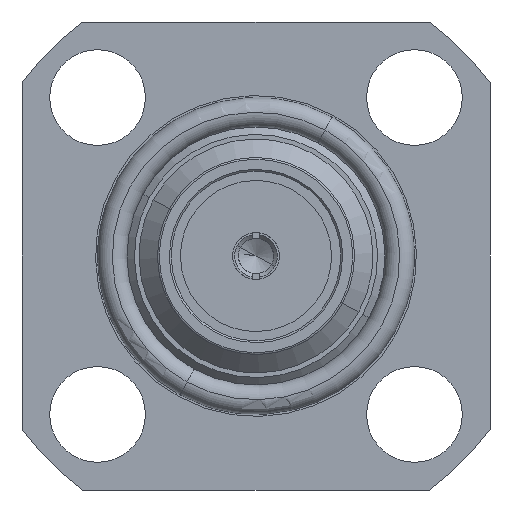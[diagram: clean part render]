
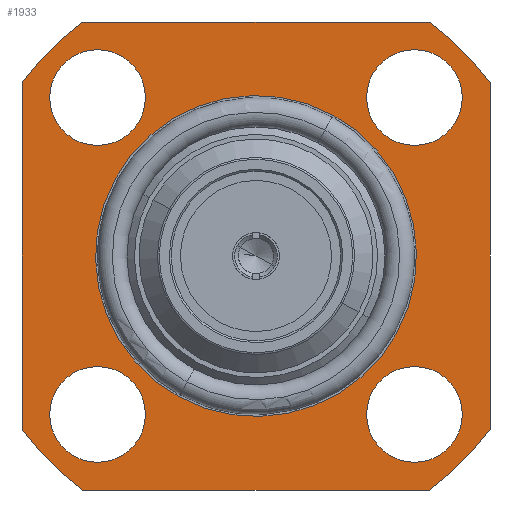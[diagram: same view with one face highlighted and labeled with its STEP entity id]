
A CAD part, left-side view. The second image highlights one B-rep face of the part: STEP entity #1933.
In plain terms, the highlighted planar face has unit normal (-1, 0, 0).
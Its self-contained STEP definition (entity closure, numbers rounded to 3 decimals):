
#222=CARTESIAN_POINT('Axis2P3D Location',(10.3,-4.3,-4.3)) ;
#226=CARTESIAN_POINT('Vertex',(10.3,-3.,-4.3)) ;
#228=CARTESIAN_POINT('Vertex',(10.3,-5.6,-4.3)) ;
#257=CARTESIAN_POINT('Axis2P3D Location',(10.3,-4.3,-4.3)) ;
#431=CARTESIAN_POINT('Vertex',(10.3,-4.7,6.35)) ;
#434=CARTESIAN_POINT('Axis2P3D Location',(10.3,0.,0.)) ;
#438=CARTESIAN_POINT('Vertex',(10.3,-6.35,4.7)) ;
#458=CARTESIAN_POINT('Line Origine',(10.3,-6.35,0.)) ;
#462=CARTESIAN_POINT('Vertex',(10.3,-6.35,-4.7)) ;
#477=CARTESIAN_POINT('Axis2P3D Location',(10.3,0.,0.)) ;
#481=CARTESIAN_POINT('Vertex',(10.3,-4.7,-6.35)) ;
#501=CARTESIAN_POINT('Line Origine',(10.3,0.,-6.35)) ;
#505=CARTESIAN_POINT('Vertex',(10.3,4.7,-6.35)) ;
#520=CARTESIAN_POINT('Axis2P3D Location',(10.3,0.,0.)) ;
#524=CARTESIAN_POINT('Vertex',(10.3,6.35,-4.7)) ;
#544=CARTESIAN_POINT('Line Origine',(10.3,6.35,0.)) ;
#548=CARTESIAN_POINT('Vertex',(10.3,6.35,4.7)) ;
#563=CARTESIAN_POINT('Axis2P3D Location',(10.3,0.,0.)) ;
#567=CARTESIAN_POINT('Vertex',(10.3,4.7,6.35)) ;
#587=CARTESIAN_POINT('Line Origine',(10.3,0.,6.35)) ;
#610=CARTESIAN_POINT('Vertex',(10.3,3.822,2.088)) ;
#613=CARTESIAN_POINT('Axis2P3D Location',(10.3,0.,0.)) ;
#617=CARTESIAN_POINT('Vertex',(10.3,-3.822,-2.088)) ;
#639=CARTESIAN_POINT('Axis2P3D Location',(10.3,0.,0.)) ;
#1774=CARTESIAN_POINT('Axis2P3D Location',(10.3,4.3,4.3)) ;
#1778=CARTESIAN_POINT('Vertex',(10.3,3.,4.3)) ;
#1780=CARTESIAN_POINT('Vertex',(10.3,5.6,4.3)) ;
#1800=CARTESIAN_POINT('Axis2P3D Location',(10.3,4.3,4.3)) ;
#1817=CARTESIAN_POINT('Axis2P3D Location',(10.3,-4.3,4.3)) ;
#1821=CARTESIAN_POINT('Vertex',(10.3,-3.,4.3)) ;
#1823=CARTESIAN_POINT('Vertex',(10.3,-5.6,4.3)) ;
#1843=CARTESIAN_POINT('Axis2P3D Location',(10.3,-4.3,4.3)) ;
#1860=CARTESIAN_POINT('Axis2P3D Location',(10.3,4.3,-4.3)) ;
#1864=CARTESIAN_POINT('Vertex',(10.3,3.,-4.3)) ;
#1866=CARTESIAN_POINT('Vertex',(10.3,5.6,-4.3)) ;
#1886=CARTESIAN_POINT('Axis2P3D Location',(10.3,4.3,-4.3)) ;
#1898=CARTESIAN_POINT('Axis2P3D Location',(10.3,-6.35,0.)) ;
#223=DIRECTION('Axis2P3D Direction',(1.,0.,0.)) ;
#258=DIRECTION('Axis2P3D Direction',(1.,0.,0.)) ;
#435=DIRECTION('Axis2P3D Direction',(1.,0.,0.)) ;
#459=DIRECTION('Vector Direction',(0.,0.,-1.)) ;
#478=DIRECTION('Axis2P3D Direction',(1.,0.,0.)) ;
#502=DIRECTION('Vector Direction',(0.,-1.,0.)) ;
#521=DIRECTION('Axis2P3D Direction',(1.,0.,0.)) ;
#545=DIRECTION('Vector Direction',(0.,0.,1.)) ;
#564=DIRECTION('Axis2P3D Direction',(1.,0.,0.)) ;
#588=DIRECTION('Vector Direction',(0.,1.,0.)) ;
#614=DIRECTION('Axis2P3D Direction',(1.,0.,0.)) ;
#640=DIRECTION('Axis2P3D Direction',(1.,0.,0.)) ;
#1775=DIRECTION('Axis2P3D Direction',(1.,0.,0.)) ;
#1801=DIRECTION('Axis2P3D Direction',(1.,0.,0.)) ;
#1818=DIRECTION('Axis2P3D Direction',(1.,0.,0.)) ;
#1844=DIRECTION('Axis2P3D Direction',(1.,0.,0.)) ;
#1861=DIRECTION('Axis2P3D Direction',(1.,0.,0.)) ;
#1887=DIRECTION('Axis2P3D Direction',(1.,0.,0.)) ;
#1899=DIRECTION('Axis2P3D Direction',(1.,0.,0.)) ;
#1900=DIRECTION('Axis2P3D XDirection',(0.,1.,0.)) ;
#224=AXIS2_PLACEMENT_3D('Circle Axis2P3D',#222,#223,$) ;
#259=AXIS2_PLACEMENT_3D('Circle Axis2P3D',#257,#258,$) ;
#436=AXIS2_PLACEMENT_3D('Circle Axis2P3D',#434,#435,$) ;
#479=AXIS2_PLACEMENT_3D('Circle Axis2P3D',#477,#478,$) ;
#522=AXIS2_PLACEMENT_3D('Circle Axis2P3D',#520,#521,$) ;
#565=AXIS2_PLACEMENT_3D('Circle Axis2P3D',#563,#564,$) ;
#615=AXIS2_PLACEMENT_3D('Circle Axis2P3D',#613,#614,$) ;
#641=AXIS2_PLACEMENT_3D('Circle Axis2P3D',#639,#640,$) ;
#1776=AXIS2_PLACEMENT_3D('Circle Axis2P3D',#1774,#1775,$) ;
#1802=AXIS2_PLACEMENT_3D('Circle Axis2P3D',#1800,#1801,$) ;
#1819=AXIS2_PLACEMENT_3D('Circle Axis2P3D',#1817,#1818,$) ;
#1845=AXIS2_PLACEMENT_3D('Circle Axis2P3D',#1843,#1844,$) ;
#1862=AXIS2_PLACEMENT_3D('Circle Axis2P3D',#1860,#1861,$) ;
#1888=AXIS2_PLACEMENT_3D('Circle Axis2P3D',#1886,#1887,$) ;
#1901=AXIS2_PLACEMENT_3D('Plane Axis2P3D',#1898,#1899,#1900) ;
#1904=ORIENTED_EDGE('',*,*,#591,.F.) ;
#1905=ORIENTED_EDGE('',*,*,#569,.F.) ;
#1906=ORIENTED_EDGE('',*,*,#550,.F.) ;
#1907=ORIENTED_EDGE('',*,*,#526,.F.) ;
#1908=ORIENTED_EDGE('',*,*,#507,.F.) ;
#1909=ORIENTED_EDGE('',*,*,#483,.F.) ;
#1910=ORIENTED_EDGE('',*,*,#464,.F.) ;
#1911=ORIENTED_EDGE('',*,*,#440,.F.) ;
#1914=ORIENTED_EDGE('',*,*,#230,.T.) ;
#1915=ORIENTED_EDGE('',*,*,#261,.T.) ;
#1918=ORIENTED_EDGE('',*,*,#1868,.T.) ;
#1919=ORIENTED_EDGE('',*,*,#1890,.T.) ;
#1922=ORIENTED_EDGE('',*,*,#1825,.T.) ;
#1923=ORIENTED_EDGE('',*,*,#1847,.T.) ;
#1926=ORIENTED_EDGE('',*,*,#1782,.T.) ;
#1927=ORIENTED_EDGE('',*,*,#1804,.T.) ;
#1930=ORIENTED_EDGE('',*,*,#643,.T.) ;
#1931=ORIENTED_EDGE('',*,*,#619,.T.) ;
#1916=FACE_BOUND('',#1913,.T.) ;
#1920=FACE_BOUND('',#1917,.T.) ;
#1924=FACE_BOUND('',#1921,.T.) ;
#1928=FACE_BOUND('',#1925,.T.) ;
#1932=FACE_BOUND('',#1929,.T.) ;
#460=VECTOR('Line Direction',#459,1.) ;
#503=VECTOR('Line Direction',#502,1.) ;
#546=VECTOR('Line Direction',#545,1.) ;
#589=VECTOR('Line Direction',#588,1.) ;
#1933=ADVANCED_FACE('\X2\96F64EF651E04F554F53\X0\',(#1912,#1916,#1920,#1924,#1928,#1932),#1902,.F.) ;
#225=CIRCLE('generated circle',#224,1.3) ;
#260=CIRCLE('generated circle',#259,1.3) ;
#437=CIRCLE('generated circle',#436,7.9) ;
#480=CIRCLE('generated circle',#479,7.9) ;
#523=CIRCLE('generated circle',#522,7.9) ;
#566=CIRCLE('generated circle',#565,7.9) ;
#616=CIRCLE('generated circle',#615,4.355) ;
#642=CIRCLE('generated circle',#641,4.355) ;
#1777=CIRCLE('generated circle',#1776,1.3) ;
#1803=CIRCLE('generated circle',#1802,1.3) ;
#1820=CIRCLE('generated circle',#1819,1.3) ;
#1846=CIRCLE('generated circle',#1845,1.3) ;
#1863=CIRCLE('generated circle',#1862,1.3) ;
#1889=CIRCLE('generated circle',#1888,1.3) ;
#230=EDGE_CURVE('',#227,#229,#225,.T.) ;
#261=EDGE_CURVE('',#229,#227,#260,.T.) ;
#440=EDGE_CURVE('',#432,#439,#437,.T.) ;
#464=EDGE_CURVE('',#439,#463,#461,.T.) ;
#483=EDGE_CURVE('',#463,#482,#480,.T.) ;
#507=EDGE_CURVE('',#482,#506,#504,.F.) ;
#526=EDGE_CURVE('',#506,#525,#523,.T.) ;
#550=EDGE_CURVE('',#525,#549,#547,.T.) ;
#569=EDGE_CURVE('',#549,#568,#566,.T.) ;
#591=EDGE_CURVE('',#568,#432,#590,.F.) ;
#619=EDGE_CURVE('',#618,#611,#616,.T.) ;
#643=EDGE_CURVE('',#611,#618,#642,.T.) ;
#1782=EDGE_CURVE('',#1779,#1781,#1777,.T.) ;
#1804=EDGE_CURVE('',#1781,#1779,#1803,.T.) ;
#1825=EDGE_CURVE('',#1822,#1824,#1820,.T.) ;
#1847=EDGE_CURVE('',#1824,#1822,#1846,.T.) ;
#1868=EDGE_CURVE('',#1865,#1867,#1863,.T.) ;
#1890=EDGE_CURVE('',#1867,#1865,#1889,.T.) ;
#1903=EDGE_LOOP('',(#1904,#1905,#1906,#1907,#1908,#1909,#1910,#1911)) ;
#1913=EDGE_LOOP('',(#1914,#1915)) ;
#1917=EDGE_LOOP('',(#1918,#1919)) ;
#1921=EDGE_LOOP('',(#1922,#1923)) ;
#1925=EDGE_LOOP('',(#1926,#1927)) ;
#1929=EDGE_LOOP('',(#1930,#1931)) ;
#1912=FACE_OUTER_BOUND('',#1903,.T.) ;
#461=LINE('Line',#458,#460) ;
#504=LINE('Line',#501,#503) ;
#547=LINE('Line',#544,#546) ;
#590=LINE('Line',#587,#589) ;
#1902=PLANE('Plane',#1901) ;
#227=VERTEX_POINT('',#226) ;
#229=VERTEX_POINT('',#228) ;
#432=VERTEX_POINT('',#431) ;
#439=VERTEX_POINT('',#438) ;
#463=VERTEX_POINT('',#462) ;
#482=VERTEX_POINT('',#481) ;
#506=VERTEX_POINT('',#505) ;
#525=VERTEX_POINT('',#524) ;
#549=VERTEX_POINT('',#548) ;
#568=VERTEX_POINT('',#567) ;
#611=VERTEX_POINT('',#610) ;
#618=VERTEX_POINT('',#617) ;
#1779=VERTEX_POINT('',#1778) ;
#1781=VERTEX_POINT('',#1780) ;
#1822=VERTEX_POINT('',#1821) ;
#1824=VERTEX_POINT('',#1823) ;
#1865=VERTEX_POINT('',#1864) ;
#1867=VERTEX_POINT('',#1866) ;
